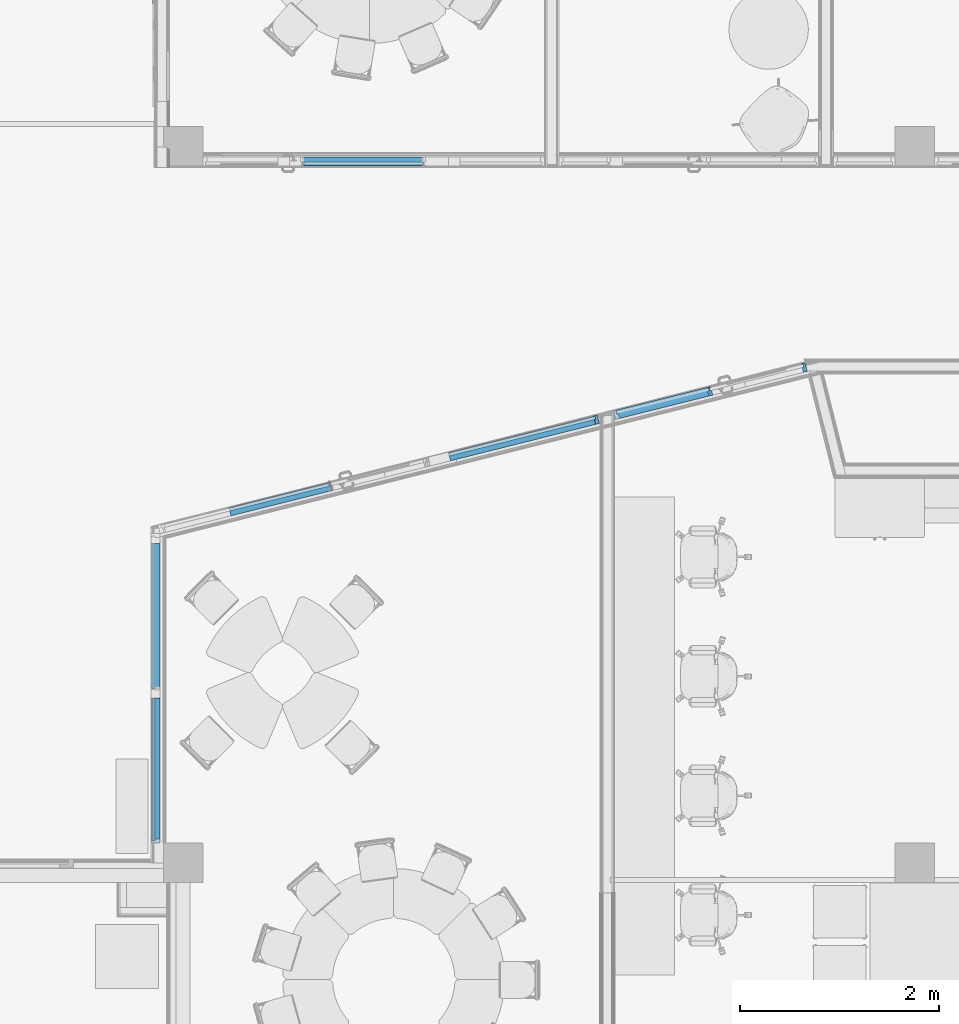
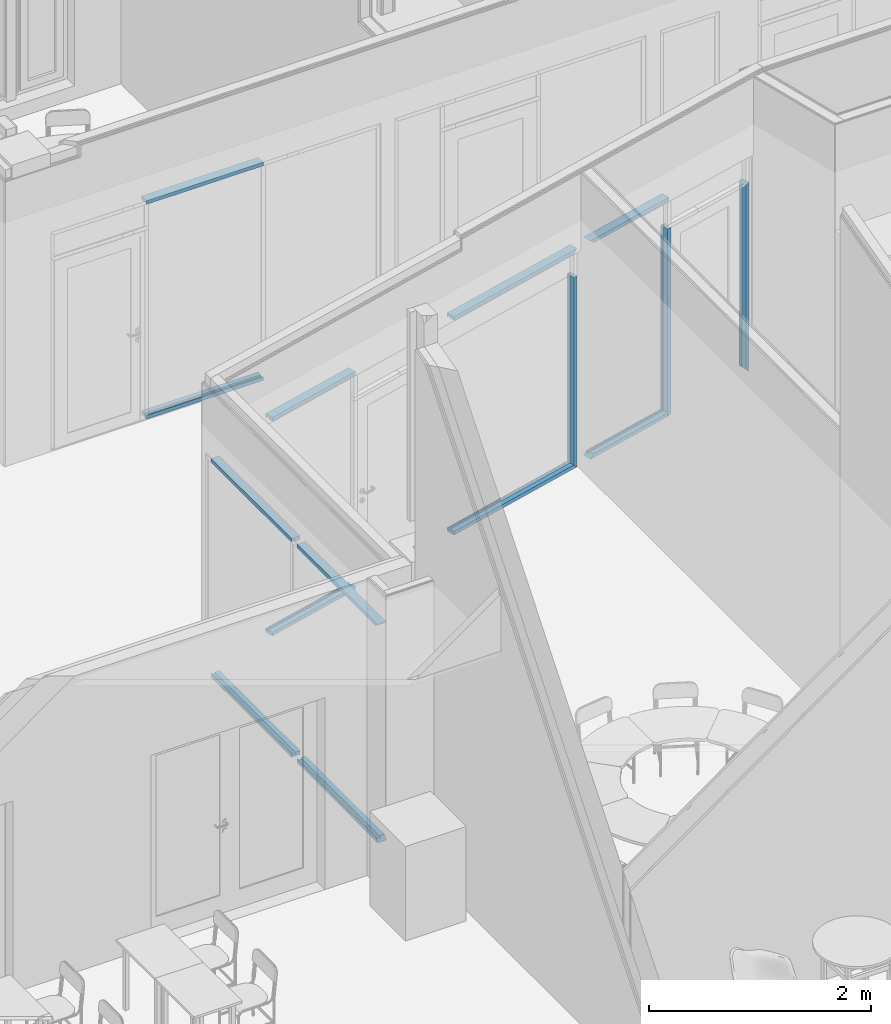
# One storey, part 31 of 153: 15 members, 4 elements without a shape of their own.
"""IFC2X3 building model written with IfcOpenShell, lengths in millimetres."""

from ifc_helpers import new_model, entity, si_unit, converted_unit, derived_unit, money_unit, direction, frame, origin_with_axes, place, context, subcontext, project, spatial, faceted_brep, material, type_object, element, aggregate, save


model = new_model("IFC2X3")

# Units and contexts
model_context = context("Model", 3, precision=0.01, world=origin_with_axes(), true_north=direction((0.0, 1.0)))
body_context = subcontext(model_context, "Body", "Model", "MODEL_VIEW")
ifc_project = project(units=[si_unit("LENGTHUNIT", "METRE", prefix="MILLI"), si_unit("AREAUNIT", "SQUARE_METRE"), si_unit("VOLUMEUNIT", "CUBIC_METRE"), converted_unit("PLANEANGLEUNIT", "DEGREE", entity("IfcPlaneAngleMeasure", 0.0174532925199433), si_unit("PLANEANGLEUNIT", "RADIAN"), dimensions=[0, 0, 0, 0, 0, 0, 0]), money_unit("EUR"), converted_unit("TIMEUNIT", "Year", entity("IfcTimeMeasure", 31557600.0), si_unit("TIMEUNIT", "SECOND"), dimensions=[0, 0, 1, 0, 0, 0, 0]), si_unit("MASSUNIT", "GRAM", prefix="KILO"), si_unit("THERMODYNAMICTEMPERATUREUNIT", "DEGREE_CELSIUS"), si_unit("LUMINOUSINTENSITYUNIT", "LUMEN"), si_unit("ENERGYUNIT", "JOULE", prefix="MEGA"), derived_unit("THERMALCONDUCTANCEUNIT", [(si_unit("POWERUNIT", "WATT"), 1), (si_unit("LENGTHUNIT", "METRE"), -1), (si_unit("THERMODYNAMICTEMPERATUREUNIT", "KELVIN"), -1)]), derived_unit("SPECIFICHEATCAPACITYUNIT", [(si_unit("ENERGYUNIT", "JOULE"), 1), (si_unit("MASSUNIT", "GRAM", prefix="KILO"), -1), (si_unit("THERMODYNAMICTEMPERATUREUNIT", "KELVIN"), -1)]), derived_unit("MASSDENSITYUNIT", [(si_unit("MASSUNIT", "GRAM", prefix="KILO"), 1), (si_unit("VOLUMEUNIT", "CUBIC_METRE"), -1)])], contexts=[model_context])

# Site, building, storey
site_placement = place(None, frame((0.0, 0.0, 8650.0), z_axis=(0.0, 0.0, 1.0), x_axis=(1.0, 0.0, 0.0)))
site = spatial("IfcSite", under=ifc_project, at=site_placement, Name="43301:001:0844", CompositionType="ELEMENT")
building_placement = place(site_placement, origin_with_axes())
building = spatial("IfcBuilding", under=site, at=building_placement, Name="Kuressaare Ametikooli tuulikute mehaanikute õppekorpus", CompositionType="ELEMENT")
storey_placement = place(building_placement, frame((0.0, 0.0, 4100.0), z_axis=(0.0, 0.0, 1.0), x_axis=(1.0, 0.0, 0.0)))
storey = spatial("IfcBuildingStorey", under=building, at=storey_placement, Name="2.korrus", CompositionType="ELEMENT", Elevation=4100.0)

# Curtain wall, members
curtain_wall_type = type_object("IfcCurtainWallType", Name="Curtain Wall Type", PredefinedType="NOTDEFINED")
curtain_wall_1_placement = place(storey_placement, frame((118271.9466433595, 17776.77433456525, 0.0), z_axis=(0.0, 0.0, 1.0), x_axis=(1.0, 0.0, 0.0)))
curtain_wall_1 = element("IfcCurtainWall", 1, at=curtain_wall_1_placement, inside=storey, type_object=curtain_wall_type, Name="PKF-2.1")
ifc_material = material(Name="Aluminium")
member_type_1 = type_object("IfcMemberType", Name="Boundary Frame 40 x 90", PredefinedType="NOTDEFINED")
member_1_placement = place(curtain_wall_1_placement, frame((0.0, 452.0193678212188, 2400.000049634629), z_axis=(0.0, -1.0, 0.0), x_axis=(0.0, 0.0, 1.0)))
member_1 = element("IfcMember", 2, at=member_1_placement, type_object=member_type_1, material=ifc_material, context=body_context, shape_type="Brep", body=[
    faceted_brep([(-25.00000000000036, -15.00000000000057, 1429.746773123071), (-40.00000000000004, -15.00000000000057, 1414.74677312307), (-40.00000000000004, -64.99999999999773, 1414.74677312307), (0.0, -64.99999999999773, 1454.74677312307), (0.0, 0.0, 1454.74677312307), (0.0, 25.00000000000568, 1454.74677312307), (-40.00000000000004, 25.00000000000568, 1414.74677312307), (-40.00000000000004, 15.00000000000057, 1414.74677312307), (-25.00000000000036, 15.00000000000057, 1429.746773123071), (-25.00000000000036, -15.00000000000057, 0.0), (-40.00000000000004, -15.00000000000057, 0.0), (-40.00000000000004, -64.99999999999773, 0.0), (0.0, -64.99999999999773, 0.0), (0.0, 0.0, 0.0), (0.0, 25.00000000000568, 0.0), (-40.00000000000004, 25.00000000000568, 0.0), (-40.00000000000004, 15.00000000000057, 0.0), (-25.00000000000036, 15.00000000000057, 0.0)], [[[0, 1, 2, 3, 4, 5, 6, 7, 8]], [[0, 9, 10, 1]], [[10, 11, 2, 1]], [[11, 12, 3, 2]], [[12, 13, 4, 3]], [[13, 14, 5, 4]], [[14, 15, 6, 5]], [[7, 6, 15, 16]], [[16, 17, 8, 7]], [[8, 17, 9, 0]], [[9, 17, 16, 15, 14, 13, 12, 11, 10]]]),
])
member_2_placement = place(curtain_wall_1_placement, frame((0.0, 452.0193678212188, 0.0), z_axis=(0.0, -1.0, 0.0), x_axis=(0.0, 0.0, 1.0)))
member_2 = element("IfcMember", 3, at=member_2_placement, type_object=member_type_1, material=ifc_material, context=body_context, shape_type="Brep", body=[
    faceted_brep([(25.00000000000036, -15.00000000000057, 1429.746773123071), (25.00000000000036, 15.00000000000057, 1429.746773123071), (40.00000000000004, 15.00000000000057, 1414.74677312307), (40.00000000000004, 25.00000000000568, 1414.74677312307), (0.0, 25.00000000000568, 1454.74677312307), (0.0, 0.0, 1454.74677312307), (0.0, -64.99999999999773, 1454.74677312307), (40.00000000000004, -64.99999999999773, 1414.74677312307), (40.00000000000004, -15.00000000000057, 1414.74677312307), (25.00000000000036, -15.00000000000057, 0.0), (25.00000000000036, 15.00000000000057, 0.0), (40.00000000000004, 15.00000000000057, 0.0), (40.00000000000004, 25.00000000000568, 0.0), (0.0, 25.00000000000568, 0.0), (0.0, 0.0, 0.0), (0.0, -64.99999999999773, 0.0), (40.00000000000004, -64.99999999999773, 0.0), (40.00000000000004, -15.00000000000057, 0.0)], [[[0, 1, 2, 3, 4, 5, 6, 7, 8]], [[1, 0, 9, 10]], [[11, 2, 1, 10]], [[2, 11, 12, 3]], [[13, 4, 3, 12]], [[14, 5, 4, 13]], [[15, 6, 5, 14]], [[16, 7, 6, 15]], [[17, 8, 7, 16]], [[0, 8, 17, 9]], [[9, 17, 16, 15, 14, 13, 12, 11, 10]]]),
])
member_3_placement = place(curtain_wall_1_placement, frame((0.0, 2005.454864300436, 0.0), z_axis=(0.0, -1.0, 0.0), x_axis=(0.0, 0.0, 1.0)))
member_3 = element("IfcMember", 4, at=member_3_placement, type_object=member_type_1, material=ifc_material, context=body_context, shape_type="Brep", body=[
    faceted_brep([(25.00000000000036, -15.00000000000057, 1454.746826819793), (25.00000000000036, 15.00000000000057, 1454.746826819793), (40.00000000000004, 15.00000000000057, 1454.746826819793), (40.00000000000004, 25.00000000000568, 1454.746826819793), (0.0, 25.00000000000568, 1454.746826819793), (0.0, 0.0, 1454.746826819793), (0.0, -64.99999999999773, 1454.746826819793), (40.00000000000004, -64.99999999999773, 1454.746826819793), (40.00000000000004, -15.00000000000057, 1454.746826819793), (25.00000000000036, -15.00000000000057, 0.0), (25.00000000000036, 15.00000000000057, 0.0), (40.00000000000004, 15.00000000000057, 0.0), (40.00000000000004, 25.00000000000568, 0.0), (0.0, 25.00000000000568, 0.0), (0.0, 0.0, 0.0), (0.0, -64.99999999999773, 0.0), (40.00000000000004, -64.99999999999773, 0.0), (40.00000000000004, -15.00000000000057, 0.0)], [[[0, 1, 2, 3, 4, 5, 6, 7, 8]], [[1, 0, 9, 10]], [[11, 2, 1, 10]], [[2, 11, 12, 3]], [[13, 4, 3, 12]], [[14, 5, 4, 13]], [[15, 6, 5, 14]], [[16, 7, 6, 15]], [[17, 8, 7, 16]], [[0, 8, 17, 9]], [[9, 17, 16, 15, 14, 13, 12, 11, 10]]]),
])
member_4_placement = place(curtain_wall_1_placement, frame((0.0, 2005.454864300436, 2400.000049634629), z_axis=(0.0, -1.0, 0.0), x_axis=(0.0, 0.0, 1.0)))
member_4 = element("IfcMember", 5, at=member_4_placement, type_object=member_type_1, material=ifc_material, context=body_context, shape_type="Brep", body=[
    faceted_brep([(-25.00000000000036, -15.00000000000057, 1454.746826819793), (-40.00000000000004, -15.00000000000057, 1454.746826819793), (-40.00000000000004, -64.99999999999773, 1454.746826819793), (0.0, -64.99999999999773, 1454.746826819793), (0.0, 0.0, 1454.746826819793), (0.0, 25.00000000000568, 1454.746826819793), (-40.00000000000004, 25.00000000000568, 1454.746826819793), (-40.00000000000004, 15.00000000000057, 1454.746826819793), (-25.00000000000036, 15.00000000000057, 1454.746826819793), (-25.00000000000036, -15.00000000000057, 0.0), (-40.00000000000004, -15.00000000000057, 0.0), (-40.00000000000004, -64.99999999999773, 0.0), (0.0, -64.99999999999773, 0.0), (0.0, 0.0, 0.0), (0.0, 25.00000000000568, 0.0), (-40.00000000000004, 25.00000000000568, 0.0), (-40.00000000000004, 15.00000000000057, 0.0), (-25.00000000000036, 15.00000000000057, 0.0)], [[[0, 1, 2, 3, 4, 5, 6, 7, 8]], [[0, 9, 10, 1]], [[10, 11, 2, 1]], [[11, 12, 3, 2]], [[12, 13, 4, 3]], [[13, 14, 5, 4]], [[14, 15, 6, 5]], [[7, 6, 15, 16]], [[16, 17, 8, 7]], [[8, 17, 9, 0]], [[9, 17, 16, 15, 14, 13, 12, 11, 10]]]),
])
aggregate(curtain_wall_1, [member_1, member_2, member_3, member_4])

curtain_wall_2_placement = place(storey_placement, frame((120547.3158940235, 20502.05468019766, 0.0), z_axis=(0.0, 0.0, 1.0), x_axis=(1.0, 0.0, 0.0)))
curtain_wall_2 = element("IfcCurtainWall", 6, at=curtain_wall_2_placement, inside=storey, type_object=curtain_wall_type, Name="PKF-2.2")
member_5_placement = place(curtain_wall_2_placement, frame((-503.1880193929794, -126.1460098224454, 0.0), z_axis=(-0.969983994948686, -0.2431687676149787, 0.0), x_axis=(0.0, 0.0, 1.0)))
member_5 = element("IfcMember", 7, at=member_5_placement, type_object=member_type_1, material=ifc_material, context=body_context, shape_type="Brep", body=[
    faceted_brep([(25.00000000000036, -14.99999999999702, 1043.420505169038), (25.00000000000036, 15.00000000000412, 1043.420505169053), (40.00000000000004, 15.00000000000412, 1043.420505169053), (40.00000000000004, 25.00000000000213, 1043.420505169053), (0.0, 25.00000000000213, 1043.420505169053), (0.0, 0.0, 1043.420505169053), (0.0, -65.00000000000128, 1043.420505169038), (40.00000000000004, -65.00000000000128, 1043.420505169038), (40.00000000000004, -14.99999999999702, 1043.420505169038), (25.00000000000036, -15.00000000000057, 0.0), (25.00000000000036, 15.00000000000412, 0.0), (40.00000000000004, 15.00000000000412, 0.0), (40.00000000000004, 25.00000000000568, 0.0), (0.0, 25.00000000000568, 0.0), (0.0, 0.0, 0.0), (0.0, -65.00000000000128, 0.0), (40.00000000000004, -65.00000000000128, 0.0), (40.00000000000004, -15.00000000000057, 0.0)], [[[0, 1, 2, 3, 4, 5, 6, 7, 8]], [[1, 0, 9, 10]], [[11, 2, 1, 10]], [[2, 11, 12, 3]], [[13, 4, 3, 12]], [[14, 5, 4, 13]], [[15, 6, 5, 14]], [[16, 7, 6, 15]], [[17, 8, 7, 16]], [[0, 8, 17, 9]], [[9, 17, 16, 15, 14, 13, 12, 11, 10]]]),
])
member_6_placement = place(curtain_wall_2_placement, frame((2187.842480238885, 548.4780804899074, 2100.000033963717), z_axis=(0.0, 0.0, -1.0), x_axis=(-0.9699839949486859, -0.2431687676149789, 0.0)))
member_6 = element("IfcMember", 8, at=member_6_placement, type_object=member_type_1, material=ifc_material, context=body_context, shape_type="Brep", body=[
    faceted_brep([(25.00000000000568, -14.99999999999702, 2075.000033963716), (25.00000000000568, 15.00000000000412, 2075.000033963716), (40.00000000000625, 15.00000000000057, 2060.000033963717), (39.99999999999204, 25.00000000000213, 2060.000033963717), (0.0, 25.00000000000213, 2100.000033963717), (0.0, 0.0, 2100.000033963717), (0.0, -64.99999999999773, 2100.000033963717), (40.00000000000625, -64.99999999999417, 2060.000033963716), (39.99999999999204, -15.00000000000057, 2060.000033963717), (25.00000000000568, -14.99999999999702, 0.0), (25.00000000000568, 15.00000000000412, 0.0), (40.00000000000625, 15.00000000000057, 0.0), (39.99999999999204, 25.00000000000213, 0.0), (0.0, 25.00000000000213, 0.0), (0.0, 0.0, 0.0), (0.0, -64.99999999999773, 0.0), (40.00000000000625, -64.99999999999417, 0.0), (39.99999999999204, -15.00000000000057, 0.0)], [[[0, 1, 2, 3, 4, 5, 6, 7, 8]], [[1, 0, 9, 10]], [[11, 2, 1, 10]], [[2, 11, 12, 3]], [[13, 4, 3, 12]], [[14, 5, 4, 13]], [[15, 6, 5, 14]], [[16, 7, 6, 15]], [[17, 8, 7, 16]], [[0, 8, 17, 9]], [[9, 17, 16, 15, 14, 13, 12, 11, 10]]]),
])
member_7_placement = place(curtain_wall_2_placement, frame((2187.842480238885, 548.4780804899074, 2400.000049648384), z_axis=(-0.9699839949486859, -0.2431687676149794, 0.0), x_axis=(0.0, 0.0, 1.0)))
member_7 = element("IfcMember", 9, at=member_7_placement, type_object=member_type_1, material=ifc_material, context=body_context, shape_type="Brep", body=[
    faceted_brep([(-25.00000000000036, -15.00000000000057, 1542.422233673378), (-40.00000000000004, -15.00000000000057, 1542.422233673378), (-40.00000000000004, -65.00000000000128, 1542.422233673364), (0.0, -65.00000000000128, 1542.422233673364), (0.0, 0.0, 1542.422233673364), (0.0, 25.00000000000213, 1542.422233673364), (-40.00000000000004, 25.00000000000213, 1542.422233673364), (-40.00000000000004, 15.00000000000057, 1542.422233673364), (-25.00000000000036, 15.00000000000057, 1542.422233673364), (-25.00000000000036, -14.99999999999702, 25.0000000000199), (-40.00000000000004, -15.00000000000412, 40.00000000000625), (-40.00000000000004, -64.99999999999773, 40.00000000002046), (0.0, -64.99999999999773, 0.0), (0.0, 0.0, 0.0), (0.0, 24.99999999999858, 0.0), (-40.00000000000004, 25.00000000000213, 39.99999999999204), (-40.00000000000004, 15.00000000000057, 40.00000000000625), (-25.00000000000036, 15.00000000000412, 25.0000000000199)], [[[0, 1, 2, 3, 4, 5, 6, 7, 8]], [[0, 9, 10, 1]], [[10, 11, 2, 1]], [[2, 11, 12, 3]], [[3, 12, 13, 4]], [[4, 13, 14, 5]], [[5, 14, 15, 6]], [[7, 6, 15, 16]], [[16, 17, 8, 7]], [[8, 17, 9, 0]], [[9, 17, 16, 15, 14, 13, 12, 11, 10]]]),
])
member_8_placement = place(curtain_wall_2_placement, frame((2187.842480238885, 548.4780804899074, 0.0), z_axis=(-0.9699839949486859, -0.2431687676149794, 0.0), x_axis=(0.0, 0.0, 1.0)))
member_8 = element("IfcMember", 10, at=member_8_placement, type_object=member_type_1, material=ifc_material, context=body_context, shape_type="Brep", body=[
    faceted_brep([(25.00000000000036, -15.00000000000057, 1542.422233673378), (25.00000000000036, 15.00000000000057, 1542.422233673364), (40.00000000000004, 15.00000000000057, 1542.422233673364), (40.00000000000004, 25.00000000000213, 1542.422233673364), (0.0, 25.00000000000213, 1542.422233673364), (0.0, 0.0, 1542.422233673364), (0.0, -65.00000000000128, 1542.422233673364), (40.00000000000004, -65.00000000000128, 1542.422233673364), (40.00000000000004, -15.00000000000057, 1542.422233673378), (25.00000000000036, -14.99999999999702, 25.0000000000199), (25.00000000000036, 15.00000000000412, 25.0000000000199), (40.00000000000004, 15.00000000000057, 40.00000000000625), (40.00000000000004, 25.00000000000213, 39.99999999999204), (0.0, 24.99999999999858, 0.0), (0.0, 0.0, 0.0), (0.0, -64.99999999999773, 0.0), (40.00000000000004, -64.99999999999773, 40.00000000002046), (40.00000000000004, -15.00000000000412, 40.00000000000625)], [[[0, 1, 2, 3, 4, 5, 6, 7, 8]], [[1, 0, 9, 10]], [[11, 2, 1, 10]], [[2, 11, 12, 3]], [[4, 3, 12, 13]], [[5, 4, 13, 14]], [[6, 5, 14, 15]], [[7, 6, 15, 16]], [[17, 8, 7, 16]], [[0, 8, 17, 9]], [[9, 17, 16, 15, 14, 13, 12, 11, 10]]]),
])
member_9_placement = place(curtain_wall_2_placement, frame((-503.1880193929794, -126.1460098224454, 2400.000049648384), z_axis=(-0.969983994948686, -0.2431687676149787, 0.0), x_axis=(0.0, 0.0, 1.0)))
member_9 = element("IfcMember", 11, at=member_9_placement, type_object=member_type_1, material=ifc_material, context=body_context, shape_type="Brep", body=[
    faceted_brep([(-25.00000000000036, -14.99999999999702, 1043.420505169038), (-40.00000000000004, -14.99999999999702, 1043.420505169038), (-40.00000000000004, -65.00000000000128, 1043.420505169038), (0.0, -65.00000000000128, 1043.420505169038), (0.0, 0.0, 1043.420505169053), (0.0, 25.00000000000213, 1043.420505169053), (-40.00000000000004, 25.00000000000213, 1043.420505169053), (-40.00000000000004, 15.00000000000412, 1043.420505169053), (-25.00000000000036, 15.00000000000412, 1043.420505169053), (-25.00000000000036, -14.99999999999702, 0.0), (-40.00000000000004, -14.99999999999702, 0.0), (-40.00000000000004, -64.99999999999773, 0.0), (0.0, -64.99999999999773, 0.0), (0.0, 0.0, 0.0), (0.0, 25.00000000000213, 0.0), (-40.00000000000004, 25.00000000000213, 0.0), (-40.00000000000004, 15.00000000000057, 0.0), (-25.00000000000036, 15.00000000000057, 0.0)], [[[0, 1, 2, 3, 4, 5, 6, 7, 8]], [[0, 9, 10, 1]], [[10, 11, 2, 1]], [[11, 12, 3, 2]], [[12, 13, 4, 3]], [[13, 14, 5, 4]], [[14, 15, 6, 5]], [[7, 6, 15, 16]], [[16, 17, 8, 7]], [[8, 17, 9, 0]], [[9, 17, 16, 15, 14, 13, 12, 11, 10]]]),
])
aggregate(curtain_wall_2, [member_5, member_6, member_7, member_8, member_9])

curtain_wall_3_placement = place(storey_placement, frame((123471.3194861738, 21235.04693506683, 4.768376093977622e-05), z_axis=(0.0, 0.0, 1.0), x_axis=(1.0, 0.0, 0.0)))
curtain_wall_3 = element("IfcCurtainWall", 12, at=curtain_wall_3_placement, inside=storey, type_object=curtain_wall_type, Name="PKF-2.3")
member_10_placement = place(curtain_wall_3_placement, frame((382.6535227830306, 95.90971011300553, 2399.999999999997), z_axis=(-0.9699953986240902, -0.2431232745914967, 0.0), x_axis=(0.0, 0.0, 1.0)))
member_10 = element("IfcMember", 13, at=member_10_placement, type_object=member_type_1, material=ifc_material, context=body_context, shape_type="Brep", body=[
    faceted_brep([(-25.00000000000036, -15.00000000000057, 961.2250978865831), (-40.00000000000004, -15.00000000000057, 946.2250978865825), (-40.00000000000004, -65.00000000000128, 946.2250978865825), (0.0, -65.00000000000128, 986.2250978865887), (0.0, 0.0, 986.2250978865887), (0.0, 24.99999999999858, 986.2250978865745), (-40.00000000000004, 24.99999999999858, 946.2250978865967), (-40.00000000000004, 15.00000000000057, 946.2250978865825), (-25.00000000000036, 15.00000000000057, 961.2250978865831), (-25.00000000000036, -15.00000000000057, 0.0), (-40.00000000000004, -15.00000000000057, 0.0), (-40.00000000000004, -65.00000000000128, 0.0), (0.0, -65.00000000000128, 0.0), (0.0, 0.0, 0.0), (0.0, 24.99999999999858, 0.0), (-40.00000000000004, 24.99999999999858, 0.0), (-40.00000000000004, 14.99999999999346, 0.0), (-25.00000000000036, 14.99999999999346, 0.0)], [[[0, 1, 2, 3, 4, 5, 6, 7, 8]], [[0, 9, 10, 1]], [[10, 11, 2, 1]], [[11, 12, 3, 2]], [[12, 13, 4, 3]], [[13, 14, 5, 4]], [[14, 15, 6, 5]], [[7, 6, 15, 16]], [[16, 17, 8, 7]], [[8, 17, 9, 0]], [[9, 17, 16, 15, 14, 13, 12, 11, 10]]]),
])
member_11_placement = place(curtain_wall_3_placement, frame((382.6535227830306, 95.90971011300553, -4.768376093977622e-05), z_axis=(-0.9699953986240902, -0.2431232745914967, 0.0), x_axis=(0.0, 0.0, 1.0)))
member_11 = element("IfcMember", 14, at=member_11_placement, type_object=member_type_1, material=ifc_material, context=body_context, shape_type="Brep", body=[
    faceted_brep([(25.00000000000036, -15.00000000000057, 961.2250978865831), (25.00000000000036, 15.00000000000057, 961.2250978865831), (40.00000000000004, 15.00000000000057, 946.2250978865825), (40.00000000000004, 24.99999999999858, 946.2250978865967), (0.0, 24.99999999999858, 986.2250978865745), (0.0, 0.0, 986.2250978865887), (0.0, -65.00000000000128, 986.2250978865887), (40.00000000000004, -65.00000000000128, 946.2250978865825), (40.00000000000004, -15.00000000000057, 946.2250978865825), (25.00000000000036, -15.00000000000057, 0.0), (25.00000000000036, 14.99999999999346, 0.0), (40.00000000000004, 14.99999999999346, 0.0), (40.00000000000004, 24.99999999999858, 0.0), (0.0, 24.99999999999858, 0.0), (0.0, 0.0, 0.0), (0.0, -65.00000000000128, 0.0), (40.00000000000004, -65.00000000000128, 0.0), (40.00000000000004, -15.00000000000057, 0.0)], [[[0, 1, 2, 3, 4, 5, 6, 7, 8]], [[1, 0, 9, 10]], [[11, 2, 1, 10]], [[2, 11, 12, 3]], [[13, 4, 3, 12]], [[14, 5, 4, 13]], [[15, 6, 5, 14]], [[16, 7, 6, 15]], [[17, 8, 7, 16]], [[0, 8, 17, 9]], [[9, 17, 16, 15, 14, 13, 12, 11, 10]]]),
])
member_12_placement = place(curtain_wall_3_placement, frame((1352.64886301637, 339.0329700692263, 2079.999968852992), z_axis=(0.0, 0.0, -1.0), x_axis=(-0.9699953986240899, -0.2431232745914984, 0.0)))
member_12 = element("IfcMember", 15, at=member_12_placement, type_object=member_type_1, material=ifc_material, context=body_context, shape_type="Brep", body=[
    faceted_brep([(25.00000000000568, -15.00000000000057, 2055.000016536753), (25.00000000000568, 15.00000000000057, 2055.000016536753), (40.00000000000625, 14.99999999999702, 2040.000016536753), (40.00000000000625, 25.00000000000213, 2040.000016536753), (0.0, 24.99999999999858, 2080.000016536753), (0.0, 0.0, 2080.000016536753), (0.0, -64.99999999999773, 2080.000016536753), (40.00000000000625, -65.00000000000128, 2040.000016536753), (40.00000000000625, -15.00000000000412, 2040.000016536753), (25.00000000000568, -15.00000000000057, 12.4999999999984), (25.00000000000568, 15.00000000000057, 12.4999999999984), (40.00000000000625, 14.99999999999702, 20.00000000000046), (40.00000000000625, 24.99999999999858, 20.00000000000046), (0.0, 24.99999999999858, 0.0), (0.0, 0.0, 0.0), (0.0, -64.99999999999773, 0.0), (40.00000000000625, -65.00000000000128, 20.00000000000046), (40.00000000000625, -15.00000000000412, 20.00000000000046)], [[[0, 1, 2, 3, 4, 5, 6, 7, 8]], [[1, 0, 9, 10]], [[11, 2, 1, 10]], [[2, 11, 12, 3]], [[13, 4, 3, 12]], [[14, 5, 4, 13]], [[15, 6, 5, 14]], [[16, 7, 6, 15]], [[17, 8, 7, 16]], [[0, 8, 17, 9]], [[9, 17, 16, 15, 14, 13, 12, 11, 10]]]),
])

curtain_wall_4_placement = place(storey_placement, frame((119422.8886145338, 23599.06892395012, 7.49398259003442e-05), z_axis=(0.0, 0.0, 1.0), x_axis=(1.0, 0.0, 0.0)))
curtain_wall_4 = element("IfcCurtainWall", 16, at=curtain_wall_4_placement, inside=storey, type_object=curtain_wall_type, Name="PKF-1.1")
member_13_placement = place(curtain_wall_4_placement, frame((345.0579609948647, 0.0, -7.493982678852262e-05), z_axis=(1.0, 0.0, 0.0), x_axis=(0.0, 0.0, 1.0)))
member_13 = element("IfcMember", 17, at=member_13_placement, type_object=member_type_1, material=ifc_material, context=body_context, shape_type="Brep", body=[
    faceted_brep([(25.00000000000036, -15.00000000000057, 1214.560892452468), (25.00000000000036, 15.00000000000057, 1214.560892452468), (40.00000000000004, 15.00000000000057, 1214.560892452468), (40.00000000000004, 24.99999999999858, 1214.560892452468), (0.0, 24.99999999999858, 1214.560892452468), (0.0, 0.0, 1214.560892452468), (0.0, -65.00000000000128, 1214.560892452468), (40.00000000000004, -65.00000000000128, 1214.560892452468), (40.00000000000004, -15.00000000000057, 1214.560892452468), (25.00000000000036, -15.00000000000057, 0.0), (25.00000000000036, 15.00000000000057, 0.0), (40.00000000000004, 15.00000000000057, 0.0), (40.00000000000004, 24.99999999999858, 0.0), (0.0, 24.99999999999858, 0.0), (0.0, 0.0, 0.0), (0.0, -65.00000000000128, 0.0), (40.00000000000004, -65.00000000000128, 0.0), (40.00000000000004, -15.00000000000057, 0.0)], [[[0, 1, 2, 3, 4, 5, 6, 7, 8]], [[1, 0, 9, 10]], [[11, 2, 1, 10]], [[2, 11, 12, 3]], [[13, 4, 3, 12]], [[14, 5, 4, 13]], [[15, 6, 5, 14]], [[16, 7, 6, 15]], [[17, 8, 7, 16]], [[0, 8, 17, 9]], [[9, 17, 16, 15, 14, 13, 12, 11, 10]]]),
])
member_14_placement = place(curtain_wall_4_placement, frame((345.0579609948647, 0.0, 2399.999972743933), z_axis=(1.0, 0.0, 0.0), x_axis=(0.0, 0.0, 1.0)))
member_14 = element("IfcMember", 18, at=member_14_placement, type_object=member_type_1, material=ifc_material, context=body_context, shape_type="Brep", body=[
    faceted_brep([(-25.00000000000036, -15.00000000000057, 1214.560892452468), (-40.00000000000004, -15.00000000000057, 1214.560892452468), (-40.00000000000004, -65.00000000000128, 1214.560892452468), (0.0, -65.00000000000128, 1214.560892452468), (0.0, 0.0, 1214.560892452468), (0.0, 24.99999999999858, 1214.560892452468), (-40.00000000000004, 24.99999999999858, 1214.560892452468), (-40.00000000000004, 15.00000000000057, 1214.560892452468), (-25.00000000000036, 15.00000000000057, 1214.560892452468), (-25.00000000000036, -15.00000000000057, 0.0), (-40.00000000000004, -15.00000000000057, 0.0), (-40.00000000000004, -65.00000000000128, 0.0), (0.0, -65.00000000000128, 0.0), (0.0, 0.0, 0.0), (0.0, 24.99999999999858, 0.0), (-40.00000000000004, 24.99999999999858, 0.0), (-40.00000000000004, 15.00000000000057, 0.0), (-25.00000000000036, 15.00000000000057, 0.0)], [[[0, 1, 2, 3, 4, 5, 6, 7, 8]], [[0, 9, 10, 1]], [[10, 11, 2, 1]], [[11, 12, 3, 2]], [[12, 13, 4, 3]], [[13, 14, 5, 4]], [[14, 15, 6, 5]], [[7, 6, 15, 16]], [[16, 17, 8, 7]], [[8, 17, 9, 0]], [[9, 17, 16, 15, 14, 13, 12, 11, 10]]]),
])
aggregate(curtain_wall_4, [member_13, member_14])

# Member
member_type_2 = type_object("IfcMemberType", Name="Mullion Frame 40 x 90", PredefinedType="NOTDEFINED")
member_15_placement = place(curtain_wall_3_placement, frame((382.6535227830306, 95.90971011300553, -4.768376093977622e-05), z_axis=(0.0, 0.0, 1.0), x_axis=(0.9699953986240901, 0.2431232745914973, 0.0)))
member_15 = element("IfcMember", 19, at=member_15_placement, type_object=member_type_2, material=ifc_material, context=body_context, shape_type="Brep", body=[
    faceted_brep([(-4.999999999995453, -15.00000000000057, 2060.000016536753), (-19.99999999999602, -15.00000000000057, 2060.000016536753), (-20.00000000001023, -65.00000000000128, 2060.000016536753), (20.00000000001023, -64.99999999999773, 2060.000016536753), (19.99999999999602, -14.99999999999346, 2060.000016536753), (4.999999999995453, -14.99999999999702, 2060.000016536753), (4.999999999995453, 15.00000000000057, 2060.000016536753), (19.99999999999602, 15.00000000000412, 2060.000016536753), (20.00000000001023, 24.99999999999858, 2060.000016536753), (-19.99999999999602, 25.00000000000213, 2060.000016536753), (-19.99999999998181, 15.00000000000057, 2060.000016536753), (-5.000000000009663, 15.00000000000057, 2060.000016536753), (-4.999999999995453, -15.00000000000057, 9.999999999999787), (-19.99999999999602, -15.00000000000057, 9.999999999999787), (-20.00000000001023, -65.00000000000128, 9.999999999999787), (20.00000000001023, -64.99999999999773, 9.999999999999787), (19.99999999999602, -14.99999999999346, 9.999999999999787), (4.999999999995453, -14.99999999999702, 9.999999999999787), (4.999999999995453, 15.00000000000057, 9.999999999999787), (19.99999999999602, 15.00000000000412, 9.999999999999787), (20.00000000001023, 24.99999999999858, 9.999999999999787), (-19.99999999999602, 25.00000000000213, 9.999999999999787), (-19.99999999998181, 15.00000000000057, 9.999999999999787), (-5.000000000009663, 15.00000000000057, 9.999999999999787)], [[[0, 1, 2, 3, 4, 5, 6, 7, 8, 9, 10, 11]], [[1, 0, 12, 13]], [[1, 13, 14, 2]], [[2, 14, 15, 3]], [[4, 3, 15, 16]], [[4, 16, 17, 5]], [[5, 17, 18, 6]], [[7, 6, 18, 19]], [[19, 20, 8, 7]], [[8, 20, 21, 9]], [[22, 10, 9, 21]], [[11, 10, 22, 23]], [[0, 11, 23, 12]], [[23, 22, 21, 20, 19, 18, 17, 16, 15, 14, 13, 12]]]),
])

aggregate(curtain_wall_3, [member_10, member_11, member_12, member_15])

save(model, "model.ifc")
